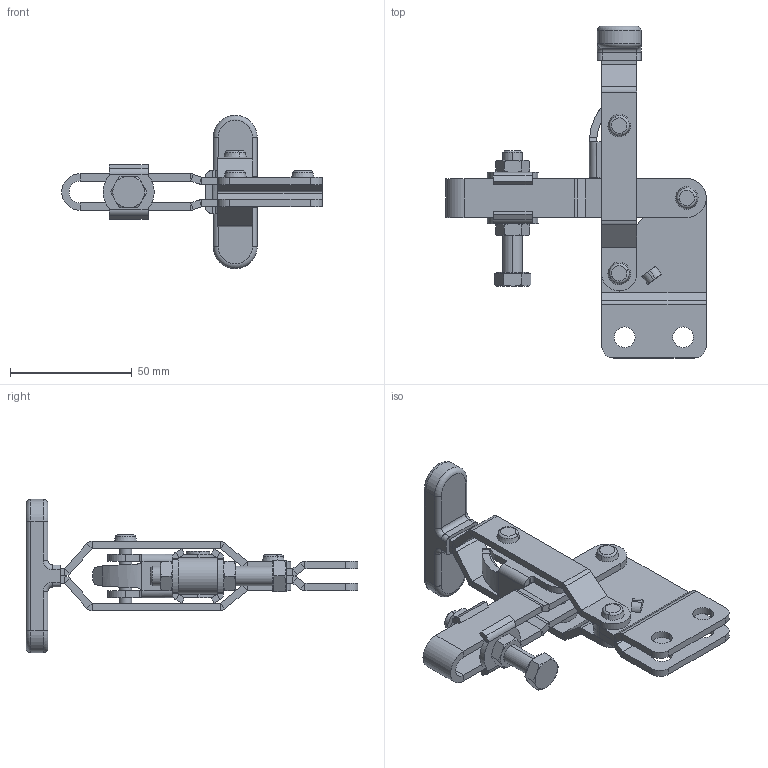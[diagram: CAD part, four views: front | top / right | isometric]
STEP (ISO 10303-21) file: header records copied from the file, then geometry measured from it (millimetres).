
FILE_DESCRIPTION (( 'STEP AP214' ), '1' );
FILE_NAME ('ISK-42S0-T1.STEP', '2024-06-20T03:04:31', ( '' ), ( '' ), 'SwSTEP 2.0', 'SolidWorks 2024', '' );
FILE_SCHEMA (( 'AUTOMOTIVE_DESIGN' ));
Length unit declared in the file: millimetre
Products named in the file (14): Base-L-42S0-T1; continuous thread hexagon head bolt_c_jis_JIS B 1180 Continuous thread hexagon head bolt C M8 x 50 --WN; thin head semi-tubular rivets gb_GB_CONNECTING_PIECE_RIVET_THSR 5X18; cone head semi-tubuler rivets gb_GB_OTHERRIVETS_TYPE89 5X28; cone head semi-tubuler rivets gb_GB_OTHERRIVETS_TYPE89 5X12; Arm-42S0-T1; T-Handle-42S0-T1; T-Grip; T-Plate; Link; Base-R-42S0-T1; Washer_D8-15; hexagon nut_3 small_jis_JIS B 1181 Small hexagon nut - Class 3 Finished M8 --N; ISK-42S0-T1
Assembly tree (17 placements, depth 2):
  ISK-42S0-T1
    Base-R-42S0-T1
    Base-L-42S0-T1
    Link
    Arm-42S0-T1
    Washer_D8-15  x2
    continuous thread hexagon head bolt_c_jis_JIS B 1180 Continuous thread hexagon head bolt C M8 x 50 --WN
    hexagon nut_3 small_jis_JIS B 1181 Small hexagon nut - Class 3 Finished M8 --N  x2
    cone head semi-tubuler rivets gb_GB_OTHERRIVETS_TYPE89 5X12  x2
    cone head semi-tubuler rivets gb_GB_OTHERRIVETS_TYPE89 5X28
    thin head semi-tubular rivets gb_GB_CONNECTING_PIECE_RIVET_THSR 5X18
    T-Handle-42S0-T1  x2
    T-Grip
    T-Plate
Bounding box: 107 x 136.3 x 63 mm (x, y, z)
Volume: 55954.4 mm3; surface area: 48603.9 mm2
Topology: 17 solids, 17 shells, 524 faces, 1146 edges, 657 vertices
Faces by surface type: plane 269, cylinder 165, cone 54, torus 30, bspline 4, sphere 2
Entity records: 11847 total; most frequent: CARTESIAN_POINT 2259, DIRECTION 2038, ORIENTED_EDGE 1788, EDGE_CURVE 894, AXIS2_PLACEMENT_3D 772, VERTEX_POINT 521, VECTOR 494, LINE 494
